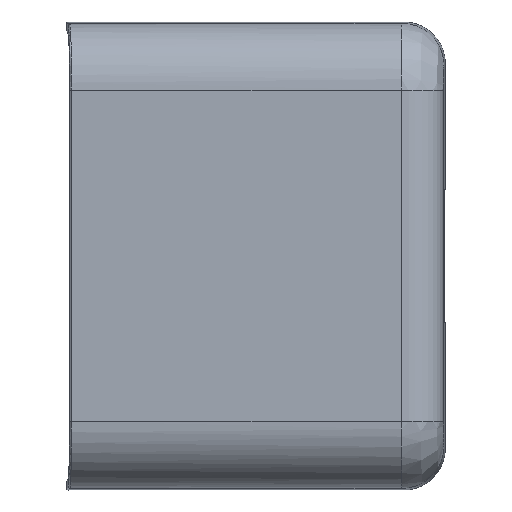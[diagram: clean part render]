
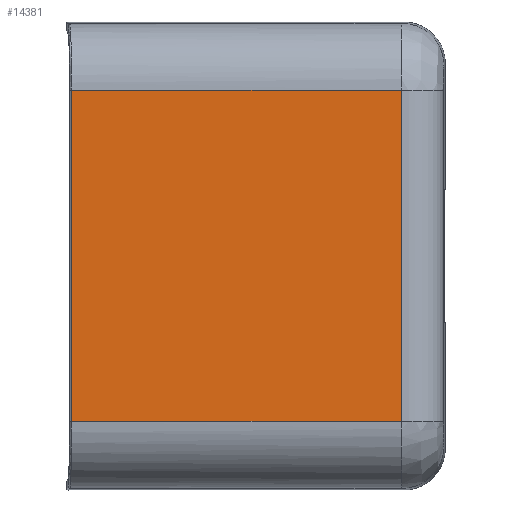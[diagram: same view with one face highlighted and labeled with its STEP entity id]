
A CAD part, top view. The second image highlights one B-rep face of the part: STEP entity #14381.
In plain terms, the highlighted planar face has unit normal (0, 0, 1).
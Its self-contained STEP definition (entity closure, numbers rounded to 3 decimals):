
#6454=CARTESIAN_POINT('',(-34.094,-25.219,
25.25));
#6486=DIRECTION('',(0.,-1.,0.));
#6487=VECTOR('',#6486,39.628);
#6488=CARTESIAN_POINT('',(-34.094,14.409,25.25));
#6489=LINE('',#6488,#6487);
#6493=DIRECTION('',(-1.,0.,0.));
#6494=VECTOR('',#6493,39.468);
#6495=CARTESIAN_POINT('',(5.374,14.409,25.25));
#6496=LINE('',#6495,#6494);
#6500=DIRECTION('',(0.,1.,0.));
#6501=VECTOR('',#6500,39.628);
#6502=CARTESIAN_POINT('',(5.374,-25.219,25.25));
#6503=LINE('',#6502,#6501);
#6507=DIRECTION('',(1.,0.,0.));
#6508=VECTOR('',#6507,39.468);
#6509=CARTESIAN_POINT('',(-34.094,-25.219,
25.25));
#6510=LINE('',#6509,#6508);
#6546=CARTESIAN_POINT('',(5.374,14.409,25.25));
#9050=VERTEX_POINT('',#6454);
#9052=CARTESIAN_POINT('',(-34.094,14.409,25.25));
#9053=VERTEX_POINT('',#9052);
#9180=VERTEX_POINT('',#6546);
#9182=CARTESIAN_POINT('',(5.374,-25.219,25.25));
#9183=VERTEX_POINT('',#9182);
#14367=CARTESIAN_POINT('',(-27.681,7.755,
25.25));
#14368=DIRECTION('',(0.,0.,-1.));
#14369=DIRECTION('',(0.,-1.,0.));
#14370=AXIS2_PLACEMENT_3D('',#14367,#14368,#14369);
#14371=PLANE('',#14370);
#14373=ORIENTED_EDGE('',*,*,#14372,.F.);
#14375=ORIENTED_EDGE('',*,*,#14374,.F.);
#14377=ORIENTED_EDGE('',*,*,#14376,.F.);
#14378=ORIENTED_EDGE('',*,*,#14359,.F.);
#14379=EDGE_LOOP('',(#14373,#14375,#14377,#14378));
#14380=FACE_OUTER_BOUND('',#14379,.F.);
#14381=ADVANCED_FACE('',(#14380),#14371,.F.);
#14359=EDGE_CURVE('',#9050,#9183,#6510,.T.);
#14372=EDGE_CURVE('',#9053,#9050,#6489,.T.);
#14374=EDGE_CURVE('',#9180,#9053,#6496,.T.);
#14376=EDGE_CURVE('',#9183,#9180,#6503,.T.);
